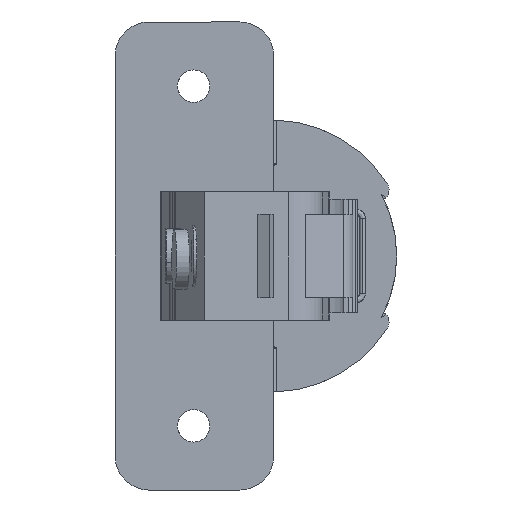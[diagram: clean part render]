
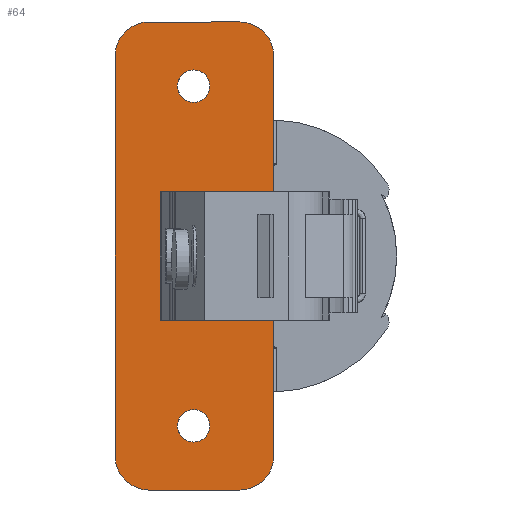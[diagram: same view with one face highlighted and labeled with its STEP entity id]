
A CAD part, left-side view. The second image highlights one B-rep face of the part: STEP entity #64.
In plain terms, the highlighted planar face has unit normal (-1, 0.002, 0).
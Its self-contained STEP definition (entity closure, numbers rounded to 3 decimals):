
#22 = VECTOR ( 'NONE', #2573, 1000. ) ;
#57 = EDGE_CURVE ( 'NONE', #227, #245, #3207, .T. ) ;
#64 = ADVANCED_FACE ( 'NONE', ( #2035, #5454, #3089 ), #2596, .T. ) ;
#90 = VERTEX_POINT ( 'NONE', #1932 ) ;
#118 = VERTEX_POINT ( 'NONE', #2506 ) ;
#124 = LINE ( 'NONE', #5231, #4760 ) ;
#154 = CARTESIAN_POINT ( 'NONE',  ( -6.849, 39.402, -25.57 ) ) ;
#182 = CARTESIAN_POINT ( 'NONE',  ( -6.862, 32.157, 9.467 ) ) ;
#203 = DIRECTION ( 'NONE',  ( 0., 0., 1. ) ) ;
#220 = DIRECTION ( 'NONE',  ( -0.002, -1., 0. ) ) ;
#227 = VERTEX_POINT ( 'NONE', #1967 ) ;
#245 = VERTEX_POINT ( 'NONE', #743 ) ;
#261 = EDGE_CURVE ( 'NONE', #4004, #1425, #4507, .T. ) ;
#269 = VERTEX_POINT ( 'NONE', #763 ) ;
#318 = VECTOR ( 'NONE', #3059, 1000. ) ;
#332 = EDGE_CURVE ( 'NONE', #5757, #118, #917, .T. ) ;
#443 = LINE ( 'NONE', #5260, #22 ) ;
#446 = CARTESIAN_POINT ( 'NONE',  ( -6.859, 33.421, -7.533 ) ) ;
#470 = LINE ( 'NONE', #182, #318 ) ;
#520 = ORIENTED_EDGE ( 'NONE', *, *, #332, .F. ) ;
#522 = CARTESIAN_POINT ( 'NONE',  ( -6.857, 34.938, -30.033 ) ) ;
#549 = DIRECTION ( 'NONE',  ( -1., 0.002, 0. ) ) ;
#634 = CARTESIAN_POINT ( 'NONE',  ( -6.857, 34.938, -25.57 ) ) ;
#685 = AXIS2_PLACEMENT_3D ( 'NONE', #2827, #2484, #4177 ) ;
#698 = VERTEX_POINT ( 'NONE', #4428 ) ;
#722 = CARTESIAN_POINT ( 'NONE',  ( -6.859, 33.421, 9.467 ) ) ;
#728 = CIRCLE ( 'NONE', #4373, 4.464 ) ;
#737 = CARTESIAN_POINT ( 'NONE',  ( -6.871, 26.852, -21.533 ) ) ;
#743 = CARTESIAN_POINT ( 'NONE',  ( -6.857, 34.938, 31.967 ) ) ;
#753 = VERTEX_POINT ( 'NONE', #872 ) ;
#763 = CARTESIAN_POINT ( 'NONE',  ( -6.887, 18.402, -7.533 ) ) ;
#765 = EDGE_CURVE ( 'NONE', #2472, #4322, #124, .T. ) ;
#770 = ORIENTED_EDGE ( 'NONE', *, *, #57, .T. ) ;
#796 = DIRECTION ( 'NONE',  ( 0., 0., -1. ) ) ;
#820 = VERTEX_POINT ( 'NONE', #4349 ) ;
#855 = VECTOR ( 'NONE', #2659, 1000. ) ;
#872 = CARTESIAN_POINT ( 'NONE',  ( -6.879, 22.865, -30.033 ) ) ;
#883 = CARTESIAN_POINT ( 'NONE',  ( -6.867, 29.002, 23.467 ) ) ;
#917 = CIRCLE ( 'NONE', #1003, 2.15 ) ;
#933 = EDGE_CURVE ( 'NONE', #698, #4004, #2583, .T. ) ;
#1003 = AXIS2_PLACEMENT_3D ( 'NONE', #5558, #1195, #4683 ) ;
#1056 = EDGE_CURVE ( 'NONE', #2472, #1296, #470, .T. ) ;
#1167 = AXIS2_PLACEMENT_3D ( 'NONE', #2953, #2899, #2878 ) ;
#1195 = DIRECTION ( 'NONE',  ( -1., 0.002, 0. ) ) ;
#1205 = ORIENTED_EDGE ( 'NONE', *, *, #933, .T. ) ;
#1277 = AXIS2_PLACEMENT_3D ( 'NONE', #4770, #4790, #4814 ) ;
#1296 = VERTEX_POINT ( 'NONE', #722 ) ;
#1325 = DIRECTION ( 'NONE',  ( -0.002, -1., 0. ) ) ;
#1384 = EDGE_CURVE ( 'NONE', #245, #698, #3685, .T. ) ;
#1396 = CARTESIAN_POINT ( 'NONE',  ( -6.812, 59.736, -7.533 ) ) ;
#1421 = AXIS2_PLACEMENT_3D ( 'NONE', #634, #549, #220 ) ;
#1425 = VERTEX_POINT ( 'NONE', #522 ) ;
#1463 = VECTOR ( 'NONE', #4970, 1000. ) ;
#1474 = LINE ( 'NONE', #1727, #3715 ) ;
#1480 = DIRECTION ( 'NONE',  ( -0.002, -1., 0. ) ) ;
#1515 = CARTESIAN_POINT ( 'NONE',  ( -6.857, 34.938, -25.57 ) ) ;
#1521 = CARTESIAN_POINT ( 'NONE',  ( -6.864, 31.152, 23.467 ) ) ;
#1565 = ORIENTED_EDGE ( 'NONE', *, *, #4347, .F. ) ;
#1577 = ORIENTED_EDGE ( 'NONE', *, *, #4217, .F. ) ;
#1602 = CARTESIAN_POINT ( 'NONE',  ( -6.879, 22.865, -25.57 ) ) ;
#1623 = DIRECTION ( 'NONE',  ( -1., 0.002, 0. ) ) ;
#1643 = DIRECTION ( 'NONE',  ( -0.002, -1., 0. ) ) ;
#1710 = CIRCLE ( 'NONE', #685, 2.15 ) ;
#1727 = CARTESIAN_POINT ( 'NONE',  ( -6.887, 18.402, 27.503 ) ) ;
#1754 = EDGE_CURVE ( 'NONE', #4322, #227, #4544, .T. ) ;
#1828 = DIRECTION ( 'NONE',  ( -1., 0.002, 0. ) ) ;
#1932 = CARTESIAN_POINT ( 'NONE',  ( -6.887, 18.402, -25.57 ) ) ;
#1965 = DIRECTION ( 'NONE',  ( -0.002, -1., 0. ) ) ;
#1967 = CARTESIAN_POINT ( 'NONE',  ( -6.879, 22.865, 31.967 ) ) ;
#1988 = EDGE_CURVE ( 'NONE', #753, #90, #728, .T. ) ;
#2035 = FACE_OUTER_BOUND ( 'NONE', #2065, .T. ) ;
#2040 = CARTESIAN_POINT ( 'NONE',  ( -6.857, 34.938, 31.967 ) ) ;
#2059 = ORIENTED_EDGE ( 'NONE', *, *, #765, .T. ) ;
#2065 = EDGE_LOOP ( 'NONE', ( #1565, #3048, #4221, #2059, #3745, #770, #3652, #1205, #5735, #3001, #2215, #3292 ) ) ;
#2095 = CIRCLE ( 'NONE', #4026, 2.15 ) ;
#2114 = EDGE_CURVE ( 'NONE', #3649, #1296, #443, .T. ) ;
#2215 = ORIENTED_EDGE ( 'NONE', *, *, #1988, .T. ) ;
#2286 = EDGE_CURVE ( 'NONE', #118, #5757, #1710, .T. ) ;
#2303 = LINE ( 'NONE', #2396, #4557 ) ;
#2396 = CARTESIAN_POINT ( 'NONE',  ( -6.879, 22.865, -30.033 ) ) ;
#2399 = ORIENTED_EDGE ( 'NONE', *, *, #2286, .F. ) ;
#2472 = VERTEX_POINT ( 'NONE', #4437 ) ;
#2484 = DIRECTION ( 'NONE',  ( -1., 0.002, 0. ) ) ;
#2485 = CARTESIAN_POINT ( 'NONE',  ( -6.849, 39.402, -25.57 ) ) ;
#2506 = CARTESIAN_POINT ( 'NONE',  ( -6.864, 31.152, -21.533 ) ) ;
#2573 = DIRECTION ( 'NONE',  ( 0., 0., 1. ) ) ;
#2583 = LINE ( 'NONE', #2485, #5539 ) ;
#2596 = PLANE ( 'NONE',  #1421 ) ;
#2659 = DIRECTION ( 'NONE',  ( 0.002, 1., 0. ) ) ;
#2783 = LINE ( 'NONE', #1396, #1463 ) ;
#2827 = CARTESIAN_POINT ( 'NONE',  ( -6.867, 29.002, -21.533 ) ) ;
#2851 = EDGE_LOOP ( 'NONE', ( #2898, #1577 ) ) ;
#2878 = DIRECTION ( 'NONE',  ( -0.002, -1., 0. ) ) ;
#2898 = ORIENTED_EDGE ( 'NONE', *, *, #4501, .F. ) ;
#2899 = DIRECTION ( 'NONE',  ( -1., 0.002, 0. ) ) ;
#2953 = CARTESIAN_POINT ( 'NONE',  ( -6.879, 22.865, 27.503 ) ) ;
#3001 = ORIENTED_EDGE ( 'NONE', *, *, #4687, .T. ) ;
#3048 = ORIENTED_EDGE ( 'NONE', *, *, #2114, .T. ) ;
#3059 = DIRECTION ( 'NONE',  ( 0.002, 1., 0. ) ) ;
#3089 = FACE_BOUND ( 'NONE', #3718, .T. ) ;
#3207 = LINE ( 'NONE', #2040, #855 ) ;
#3277 = VERTEX_POINT ( 'NONE', #1521 ) ;
#3292 = ORIENTED_EDGE ( 'NONE', *, *, #3547, .T. ) ;
#3547 = EDGE_CURVE ( 'NONE', #90, #269, #1474, .T. ) ;
#3649 = VERTEX_POINT ( 'NONE', #446 ) ;
#3652 = ORIENTED_EDGE ( 'NONE', *, *, #1384, .T. ) ;
#3685 = CIRCLE ( 'NONE', #1277, 4.464 ) ;
#3715 = VECTOR ( 'NONE', #5299, 1000. ) ;
#3718 = EDGE_LOOP ( 'NONE', ( #520, #2399 ) ) ;
#3745 = ORIENTED_EDGE ( 'NONE', *, *, #1754, .T. ) ;
#4004 = VERTEX_POINT ( 'NONE', #154 ) ;
#4020 = DIRECTION ( 'NONE',  ( -1., 0.002, 0. ) ) ;
#4026 = AXIS2_PLACEMENT_3D ( 'NONE', #4519, #1828, #4957 ) ;
#4177 = DIRECTION ( 'NONE',  ( -0.002, -1., 0. ) ) ;
#4199 = DIRECTION ( 'NONE',  ( -1., 0.002, 0. ) ) ;
#4217 = EDGE_CURVE ( 'NONE', #3277, #820, #4267, .T. ) ;
#4221 = ORIENTED_EDGE ( 'NONE', *, *, #1056, .F. ) ;
#4267 = CIRCLE ( 'NONE', #5320, 2.15 ) ;
#4322 = VERTEX_POINT ( 'NONE', #5392 ) ;
#4347 = EDGE_CURVE ( 'NONE', #3649, #269, #2783, .T. ) ;
#4349 = CARTESIAN_POINT ( 'NONE',  ( -6.871, 26.852, 23.467 ) ) ;
#4373 = AXIS2_PLACEMENT_3D ( 'NONE', #1602, #1623, #1643 ) ;
#4428 = CARTESIAN_POINT ( 'NONE',  ( -6.849, 39.402, 27.503 ) ) ;
#4437 = CARTESIAN_POINT ( 'NONE',  ( -6.887, 18.402, 9.467 ) ) ;
#4501 = EDGE_CURVE ( 'NONE', #820, #3277, #2095, .T. ) ;
#4507 = CIRCLE ( 'NONE', #5575, 4.464 ) ;
#4519 = CARTESIAN_POINT ( 'NONE',  ( -6.867, 29.002, 23.467 ) ) ;
#4544 = CIRCLE ( 'NONE', #1167, 4.464 ) ;
#4557 = VECTOR ( 'NONE', #1965, 1000. ) ;
#4683 = DIRECTION ( 'NONE',  ( -0.002, -1., 0. ) ) ;
#4687 = EDGE_CURVE ( 'NONE', #1425, #753, #2303, .T. ) ;
#4760 = VECTOR ( 'NONE', #203, 1000. ) ;
#4770 = CARTESIAN_POINT ( 'NONE',  ( -6.857, 34.938, 27.503 ) ) ;
#4790 = DIRECTION ( 'NONE',  ( -1., 0.002, 0. ) ) ;
#4814 = DIRECTION ( 'NONE',  ( -0.002, -1., 0. ) ) ;
#4957 = DIRECTION ( 'NONE',  ( -0.002, -1., 0. ) ) ;
#4970 = DIRECTION ( 'NONE',  ( -0.002, -1., 0. ) ) ;
#5231 = CARTESIAN_POINT ( 'NONE',  ( -6.887, 18.402, 27.503 ) ) ;
#5260 = CARTESIAN_POINT ( 'NONE',  ( -6.859, 33.421, -85.752 ) ) ;
#5299 = DIRECTION ( 'NONE',  ( 0., 0., 1. ) ) ;
#5320 = AXIS2_PLACEMENT_3D ( 'NONE', #883, #4020, #1325 ) ;
#5392 = CARTESIAN_POINT ( 'NONE',  ( -6.887, 18.402, 27.503 ) ) ;
#5454 = FACE_BOUND ( 'NONE', #2851, .T. ) ;
#5539 = VECTOR ( 'NONE', #796, 1000. ) ;
#5558 = CARTESIAN_POINT ( 'NONE',  ( -6.867, 29.002, -21.533 ) ) ;
#5575 = AXIS2_PLACEMENT_3D ( 'NONE', #1515, #4199, #1480 ) ;
#5735 = ORIENTED_EDGE ( 'NONE', *, *, #261, .T. ) ;
#5757 = VERTEX_POINT ( 'NONE', #737 ) ;
